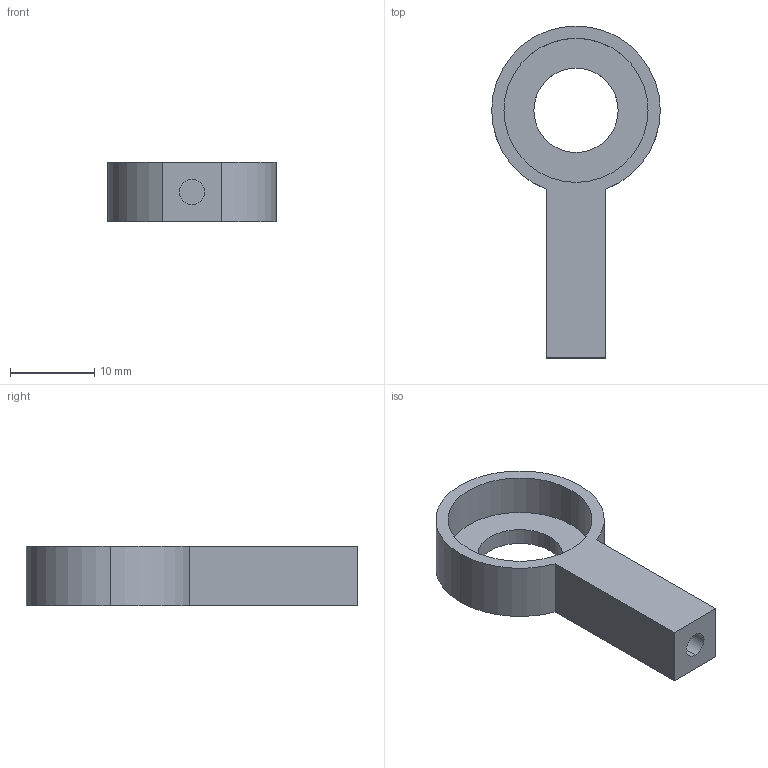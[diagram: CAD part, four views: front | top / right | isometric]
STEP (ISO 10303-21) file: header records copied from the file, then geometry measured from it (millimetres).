
FILE_DESCRIPTION (( 'STEP AP214' ), '1' );
FILE_NAME ('D.STEP', '2023-05-04T07:55:46', ( 'ay' ), ( '' ), 'SwSTEP 2.0', 'SolidWorks 2020', '' );
FILE_SCHEMA (( 'AUTOMOTIVE_DESIGN' ));
Length unit declared in the file: millimetre
Products named in the file (1): D
Bounding box: 20 x 39.37 x 7 mm (x, y, z)
Volume: 1711.6 mm3; surface area: 1984 mm2
Topology: 1 solids, 1 shells, 16 faces, 36 edges, 24 vertices
Faces by surface type: cylinder 9, plane 7
Entity records: 496 total; most frequent: DIRECTION 88, CARTESIAN_POINT 77, ORIENTED_EDGE 72, EDGE_CURVE 36, AXIS2_PLACEMENT_3D 35, VERTEX_POINT 24, EDGE_LOOP 20, VECTOR 18
